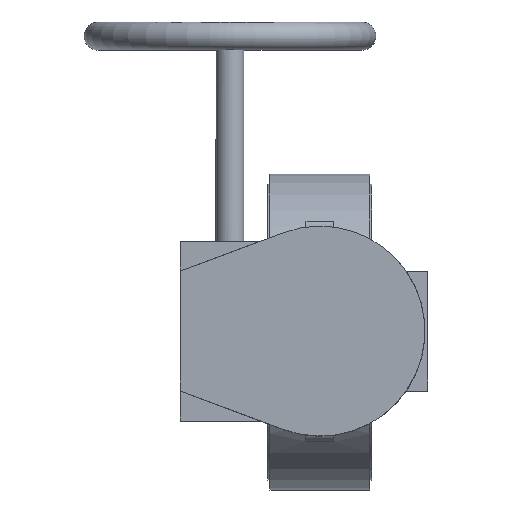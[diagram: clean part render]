
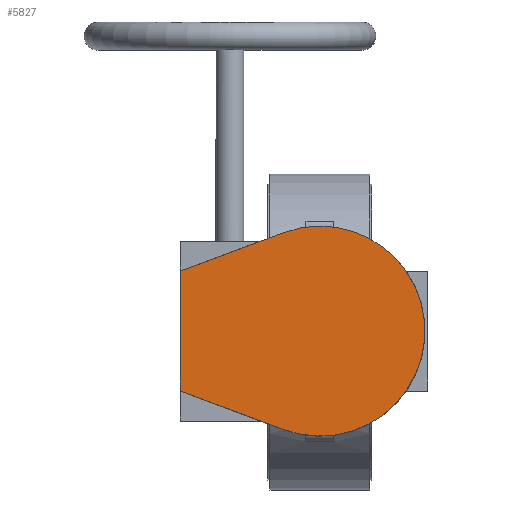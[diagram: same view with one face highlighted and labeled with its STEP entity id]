
A CAD part, top view. The second image highlights one B-rep face of the part: STEP entity #5827.
In plain terms, the highlighted planar face has unit normal (0, 0, 1).
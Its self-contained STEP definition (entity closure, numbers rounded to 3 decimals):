
#5827=ADVANCED_FACE('',(#10625),#10627,.T.);
#10625=FACE_BOUND('',#10626,.T.);
#10626=EDGE_LOOP('',(#14403,#14404,#14405,#14406));
#10627=PLANE('',#10628);
#10628=AXIS2_PLACEMENT_3D('',#10629,#10630,#10631);
#10629=CARTESIAN_POINT('',(0.,0.,265.));
#10630=DIRECTION('',(0.,0.,1.));
#10631=DIRECTION('',(0.,1.,0.));
#14403=ORIENTED_EDGE('',*,*,#16317,.T.);
#14404=ORIENTED_EDGE('',*,*,#16313,.T.);
#14405=ORIENTED_EDGE('',*,*,#16306,.T.);
#14406=ORIENTED_EDGE('',*,*,#16301,.T.);
#16301=EDGE_CURVE('',#19380,#19378,#19381,.T.);
#16306=EDGE_CURVE('',#19388,#19380,#19389,.T.);
#16313=EDGE_CURVE('',#19401,#19388,#19402,.T.);
#16317=EDGE_CURVE('',#19378,#19401,#19407,.T.);
#19378=VERTEX_POINT('',#27665);
#19380=VERTEX_POINT('',#27669);
#19381=LINE('',#27670,#27671);
#19388=VERTEX_POINT('',#27687);
#19389=LINE('',#27688,#27689);
#19401=VERTEX_POINT('',#27714);
#19402=LINE('',#27715,#27716);
#19407=CIRCLE('',#27728,52.5);
#27665=CARTESIAN_POINT('',(-18.284,-49.213,265.));
#27669=CARTESIAN_POINT('',(-70.,-30.,265.));
#27670=CARTESIAN_POINT('',(-70.,-30.,265.));
#27671=VECTOR('',#27672,1.);
#27672=DIRECTION('',(0.937,-0.348,0.));
#27687=CARTESIAN_POINT('',(-70.,30.,265.));
#27688=CARTESIAN_POINT('',(-70.,30.,265.));
#27689=VECTOR('',#27690,1.);
#27690=DIRECTION('',(0.,-1.,0.));
#27714=CARTESIAN_POINT('',(-18.284,49.213,265.));
#27715=CARTESIAN_POINT('',(-18.284,49.213,265.));
#27716=VECTOR('',#27717,1.);
#27717=DIRECTION('',(-0.937,-0.348,0.));
#27728=AXIS2_PLACEMENT_3D('',#27729,#27730,#27731);
#27729=CARTESIAN_POINT('',(0.,0.,265.));
#27730=DIRECTION('',(0.,0.,1.));
#27731=DIRECTION('',(-0.348,-0.937,0.));
